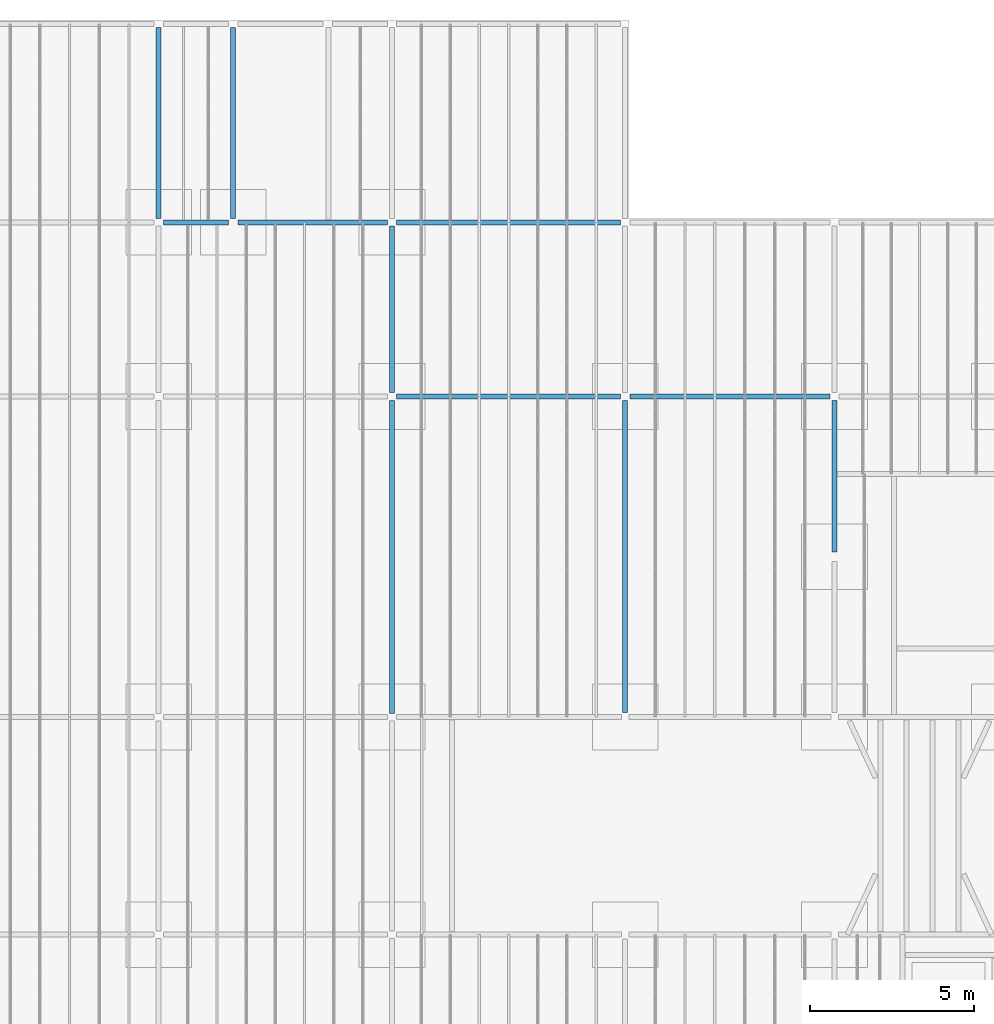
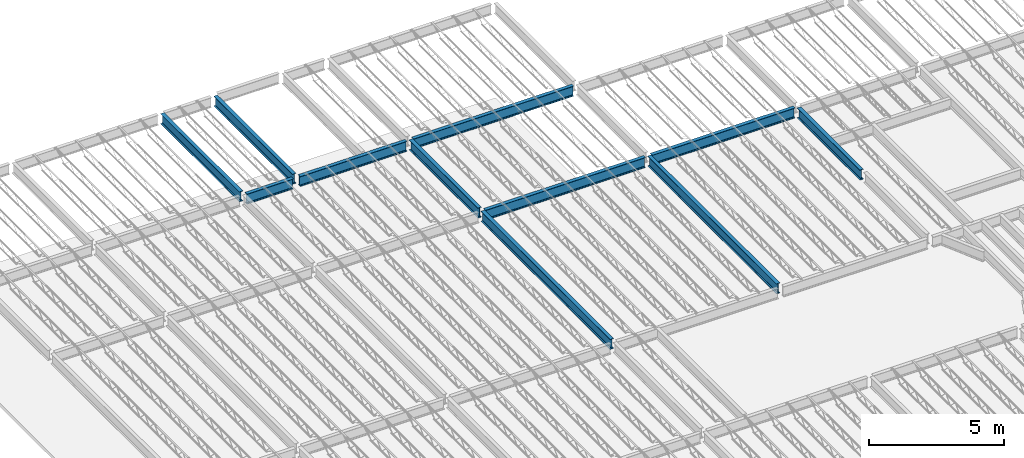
# One storey, part 10 of 75: 11 beams.
"""IFC2X3 building model written with IfcOpenShell, lengths in metres."""

from ifc_helpers import new_model, entity, si_unit, converted_unit, frame, frame_2d, origin, place, context, project, spatial, polyline, circle_curve, parameter, trimmed, segment, composite_curve, outline, extrude, material, element, save


model = new_model("IFC2X3")

# Units and contexts
model_context = context("Model", 3, precision=1e-09, world=origin())
plan_context = context("Plan", 3, precision=1e-09, world=origin())
ifc_project = project(units=[si_unit("LENGTHUNIT", "METRE"), si_unit("AREAUNIT", "SQUARE_METRE"), si_unit("VOLUMEUNIT", "CUBIC_METRE"), converted_unit("PLANEANGLEUNIT", "DEGREE", entity("IfcRatioMeasure", 0.01745329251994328), si_unit("PLANEANGLEUNIT", "RADIAN"), dimensions=[0, 0, 0, 0, 0, 0, 0]), si_unit("TIMEUNIT", "SECOND")], contexts=[model_context, plan_context])

# Site, building, storey
site_placement = place(None, origin())
site = spatial("IfcSite", under=ifc_project, at=site_placement, Name="Default", CompositionType="ELEMENT")
building_placement = place(site_placement, origin())
building = spatial("IfcBuilding", under=site, at=building_placement, CompositionType="ELEMENT")
storey_placement = place(building_placement, origin())
storey = spatial("IfcBuildingStorey", under=building, at=storey_placement, Name="First Floor", CompositionType="ELEMENT", Elevation=-3.531500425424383e-13)

# Beams
ifc_material = material(Name="Metal - Steel - 345 MPa")
beam_1_placement = place(storey_placement, frame((-33.55, 50.09257849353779, 4.468000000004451), z_axis=(0.0, 0.0, 1.0), x_axis=(-1.0, 0.0, 0.0)))
element("IfcBeam", 1, at=beam_1_placement, inside=storey, material=ifc_material, Name="M_W-Wide Flange:W460X60:W460X60", ObjectType="M_W-Wide Flange:W460X60", context=model_context, shape_type="SweptSolid", body=[
    extrude(outline(composite_curve([segment(polyline([(0.2142000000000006, -0.07649999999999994), (0.2275000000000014, -0.07649999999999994)]), True, "CONTINUOUS"), segment(polyline([(0.2275000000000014, -0.07649999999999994), (0.2275000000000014, 0.07649999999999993)]), True, "CONTINUOUS"), segment(polyline([(0.2275000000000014, 0.07649999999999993), (0.2142000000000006, 0.07649999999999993)]), True, "CONTINUOUS"), segment(polyline([(0.2142000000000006, 0.07649999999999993), (0.2142000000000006, 0.0216999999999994)]), True, "CONTINUOUS"), segment(trimmed(circle_curve(frame_2d((0.1965000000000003, 0.0216999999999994), x_axis=(1.0, 0.0)), 0.0177), [parameter(269.9999999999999)], [parameter(359.9999999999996)], True, "PARAMETER"), False, "CONTINUOUS"), segment(polyline([(0.1965000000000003, 0.003999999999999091), (-0.1964999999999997, 0.003999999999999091)]), True, "CONTINUOUS"), segment(trimmed(circle_curve(frame_2d((-0.1964999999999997, 0.0216999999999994), x_axis=(0.0, -1.0)), 0.0177), [parameter(269.9999999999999)], [parameter(359.9999999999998)], True, "PARAMETER"), False, "CONTINUOUS"), segment(polyline([(-0.2141999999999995, 0.0216999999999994), (-0.2141999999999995, 0.07649999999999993)]), True, "CONTINUOUS"), segment(polyline([(-0.2141999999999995, 0.07649999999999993), (-0.2274999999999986, 0.07649999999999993)]), True, "CONTINUOUS"), segment(polyline([(-0.2274999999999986, 0.07649999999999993), (-0.2274999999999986, -0.07649999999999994)]), True, "CONTINUOUS"), segment(polyline([(-0.2274999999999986, -0.07649999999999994), (-0.2141999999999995, -0.07649999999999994)]), True, "CONTINUOUS"), segment(polyline([(-0.2141999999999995, -0.07649999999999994), (-0.2141999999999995, -0.0216999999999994)]), True, "CONTINUOUS"), segment(trimmed(circle_curve(frame_2d((-0.1964999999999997, -0.0216999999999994), x_axis=(-1.0, 0.0)), 0.0177), [parameter(269.9999999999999)], [parameter(359.9999999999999)], True, "PARAMETER"), False, "CONTINUOUS"), segment(polyline([(-0.1964999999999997, -0.00399999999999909), (0.1965000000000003, -0.00399999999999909)]), True, "CONTINUOUS"), segment(trimmed(circle_curve(frame_2d((0.1965000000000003, -0.0216999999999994), x_axis=(0.0, 1.0)), 0.0177), [parameter(269.9999999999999)], [parameter(5.088887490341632e-14)], True, "PARAMETER"), False, "CONTINUOUS"), segment(polyline([(0.2142000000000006, -0.0216999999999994), (0.2142000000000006, -0.07649999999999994)]), True, "CONTINUOUS")], self_intersect=False)), frame((0.0, 5.197878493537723, -0.2275000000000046), z_axis=(0.0, -1.0, 0.0), x_axis=(0.0, 0.0, -1.0)), (0.0, 0.0, 1.0), 5.080599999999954),
])
beam_2_placement = place(storey_placement, frame((-40.65999999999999, 56.14226323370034, 4.46800000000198), z_axis=(0.0, 0.0, 1.0), x_axis=(-1.0, 0.0, 0.0)))
element("IfcBeam", 2, at=beam_2_placement, inside=storey, material=ifc_material, Name="M_W-Wide Flange:W460X60:W460X60", ObjectType="M_W-Wide Flange:W460X60", context=model_context, shape_type="SweptSolid", body=[
    extrude(outline(composite_curve([segment(polyline([(0.2141999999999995, -0.07649999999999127), (0.2275000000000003, -0.07649999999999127)]), True, "CONTINUOUS"), segment(polyline([(0.2275000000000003, -0.07649999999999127), (0.2275000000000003, 0.0765000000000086)]), True, "CONTINUOUS"), segment(polyline([(0.2275000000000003, 0.0765000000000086), (0.2141999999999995, 0.0765000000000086)]), True, "CONTINUOUS"), segment(polyline([(0.2141999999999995, 0.0765000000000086), (0.2141999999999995, 0.02170000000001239)]), True, "CONTINUOUS"), segment(trimmed(circle_curve(frame_2d((0.1964999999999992, 0.02170000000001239), x_axis=(0.0, 1.0)), 0.0177), [parameter(180.0)], [parameter(269.9999999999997)], True, "PARAMETER"), False, "CONTINUOUS"), segment(polyline([(0.1964999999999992, 0.004000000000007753), (-0.1965000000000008, 0.004000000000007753)]), True, "CONTINUOUS"), segment(trimmed(circle_curve(frame_2d((-0.1965000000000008, 0.02170000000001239), x_axis=(0.0, 1.0)), 0.0177), [parameter(90.00000000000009)], [parameter(179.9999999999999)], True, "PARAMETER"), False, "CONTINUOUS"), segment(polyline([(-0.2142000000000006, 0.02170000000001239), (-0.2142000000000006, 0.0765000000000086)]), True, "CONTINUOUS"), segment(polyline([(-0.2142000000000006, 0.0765000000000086), (-0.2274999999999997, 0.0765000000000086)]), True, "CONTINUOUS"), segment(polyline([(-0.2274999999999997, 0.0765000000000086), (-0.2274999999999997, -0.07649999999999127)]), True, "CONTINUOUS"), segment(polyline([(-0.2274999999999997, -0.07649999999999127), (-0.2142000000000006, -0.07649999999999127)]), True, "CONTINUOUS"), segment(polyline([(-0.2142000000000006, -0.07649999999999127), (-0.2142000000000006, -0.02169999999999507)]), True, "CONTINUOUS"), segment(trimmed(circle_curve(frame_2d((-0.1965000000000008, -0.0216999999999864), x_axis=(0.0, 1.0)), 0.0177), [parameter(359.9999999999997)], [parameter(89.99999999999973)], True, "PARAMETER"), False, "CONTINUOUS"), segment(polyline([(-0.1965000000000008, -0.003999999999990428), (0.1964999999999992, -0.003999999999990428)]), True, "CONTINUOUS"), segment(trimmed(circle_curve(frame_2d((0.1964999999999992, -0.0216999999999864), x_axis=(0.0, 1.0)), 0.0177), [parameter(269.9999999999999)], [parameter(0.0)], True, "PARAMETER"), False, "CONTINUOUS"), segment(polyline([(0.2141999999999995, -0.02169999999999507), (0.2141999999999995, -0.07649999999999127)]), True, "CONTINUOUS")], self_intersect=False)), frame((0.0, 5.937563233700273, -0.2275000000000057), z_axis=(0.0, -1.0, 0.0), x_axis=(0.0, 0.0, -1.0)), (0.0, 0.0, 1.0), 5.820600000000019),
])
beam_3_placement = place(storey_placement, frame((-33.55192591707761, 44.78000000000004, 4.404500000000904), z_axis=(0.0, 0.0, 1.0), x_axis=(0.0, -1.0, 0.0)))
element("IfcBeam", 3, at=beam_3_placement, inside=storey, material=ifc_material, Name="M_W-Wide Flange:W460X60:W460X60", ObjectType="M_W-Wide Flange:W460X60", context=model_context, shape_type="SweptSolid", body=[
    extrude(outline(composite_curve([segment(polyline([(-0.07650000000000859, -0.2142000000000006), (-0.07650000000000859, -0.2275000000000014)]), True, "CONTINUOUS"), segment(polyline([(-0.07650000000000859, -0.2275000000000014), (0.07649999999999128, -0.2275000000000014)]), True, "CONTINUOUS"), segment(polyline([(0.07649999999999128, -0.2275000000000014), (0.07649999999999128, -0.2142000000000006)]), True, "CONTINUOUS"), segment(polyline([(0.07649999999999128, -0.2142000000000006), (0.02169999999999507, -0.2142000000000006)]), True, "CONTINUOUS"), segment(trimmed(circle_curve(frame_2d((0.0216999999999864, -0.1965000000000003), x_axis=(0.0, -1.0)), 0.0177), [parameter(269.9999999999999)], [parameter(359.9999999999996)], True, "PARAMETER"), False, "CONTINUOUS"), segment(polyline([(0.003999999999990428, -0.1965000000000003), (0.003999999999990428, 0.1964999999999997)]), True, "CONTINUOUS"), segment(trimmed(circle_curve(frame_2d((0.0216999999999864, 0.1964999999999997), x_axis=(-1.0, 0.0)), 0.0177), [parameter(269.9999999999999)], [parameter(359.9999999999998)], True, "PARAMETER"), False, "CONTINUOUS"), segment(polyline([(0.02169999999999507, 0.2141999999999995), (0.07649999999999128, 0.2141999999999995)]), True, "CONTINUOUS"), segment(polyline([(0.07649999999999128, 0.2141999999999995), (0.07649999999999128, 0.2274999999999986)]), True, "CONTINUOUS"), segment(polyline([(0.07649999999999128, 0.2274999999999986), (-0.07650000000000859, 0.2274999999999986)]), True, "CONTINUOUS"), segment(polyline([(-0.07650000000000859, 0.2274999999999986), (-0.07650000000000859, 0.2141999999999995)]), True, "CONTINUOUS"), segment(polyline([(-0.07650000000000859, 0.2141999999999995), (-0.02170000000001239, 0.2141999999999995)]), True, "CONTINUOUS"), segment(trimmed(circle_curve(frame_2d((-0.02170000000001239, 0.1964999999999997), x_axis=(0.0, 1.0)), 0.0177), [parameter(269.9999999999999)], [parameter(359.9999999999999)], True, "PARAMETER"), False, "CONTINUOUS"), segment(polyline([(-0.004000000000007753, 0.1964999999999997), (-0.004000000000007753, -0.1965000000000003)]), True, "CONTINUOUS"), segment(trimmed(circle_curve(frame_2d((-0.02170000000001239, -0.1965000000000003), x_axis=(1.0, 0.0)), 0.0177), [parameter(269.9999999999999)], [parameter(5.088887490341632e-14)], True, "PARAMETER"), False, "CONTINUOUS"), segment(polyline([(-0.02170000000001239, -0.2142000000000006), (-0.07650000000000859, -0.2142000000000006)]), True, "CONTINUOUS")], self_intersect=False)), frame((0.0, 0.1431259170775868, -0.2275000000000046), z_axis=(0.0, -1.0, 0.0), x_axis=(1.0, 0.0, 0.0)), (0.0, 0.0, -1.0), 6.827600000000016),
])
beam_4_placement = place(storey_placement, frame((-38.38999999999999, 50.08773676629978, 4.46800000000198)))
element("IfcBeam", 4, at=beam_4_placement, inside=storey, material=ifc_material, Name="M_W-Wide Flange:W460X60:W460X60", ObjectType="M_W-Wide Flange:W460X60", context=model_context, shape_type="SweptSolid", body=[
    extrude(outline(composite_curve([segment(polyline([(-0.0765000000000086, -0.2142), (-0.0765000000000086, -0.2275000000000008)]), True, "CONTINUOUS"), segment(polyline([(-0.0765000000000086, -0.2275000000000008), (0.07649999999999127, -0.2275000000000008)]), True, "CONTINUOUS"), segment(polyline([(0.07649999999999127, -0.2275000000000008), (0.07649999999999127, -0.2142)]), True, "CONTINUOUS"), segment(polyline([(0.07649999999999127, -0.2142), (0.02169999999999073, -0.2142)]), True, "CONTINUOUS"), segment(trimmed(circle_curve(frame_2d((0.02169999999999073, -0.1964999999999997), x_axis=(1.0, 0.0)), 0.0177), [parameter(180.0)], [parameter(269.9999999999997)], True, "PARAMETER"), False, "CONTINUOUS"), segment(polyline([(0.003999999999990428, -0.1964999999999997), (0.003999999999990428, 0.1965000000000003)]), True, "CONTINUOUS"), segment(trimmed(circle_curve(frame_2d((0.02169999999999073, 0.1965000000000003), x_axis=(1.0, 0.0)), 0.0177), [parameter(90.00000000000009)], [parameter(179.9999999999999)], True, "PARAMETER"), False, "CONTINUOUS"), segment(polyline([(0.02169999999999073, 0.2142000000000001), (0.07649999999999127, 0.2142000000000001)]), True, "CONTINUOUS"), segment(polyline([(0.07649999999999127, 0.2142000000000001), (0.07649999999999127, 0.2274999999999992)]), True, "CONTINUOUS"), segment(polyline([(0.07649999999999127, 0.2274999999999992), (-0.0765000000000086, 0.2274999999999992)]), True, "CONTINUOUS"), segment(polyline([(-0.0765000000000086, 0.2274999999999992), (-0.0765000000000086, 0.2142000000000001)]), True, "CONTINUOUS"), segment(polyline([(-0.0765000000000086, 0.2142000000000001), (-0.02170000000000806, 0.2142000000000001)]), True, "CONTINUOUS"), segment(trimmed(circle_curve(frame_2d((-0.02170000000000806, 0.1965000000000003), x_axis=(1.0, 0.0)), 0.0177), [parameter(359.9999999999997)], [parameter(89.99999999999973)], True, "PARAMETER"), False, "CONTINUOUS"), segment(polyline([(-0.004000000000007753, 0.1965000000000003), (-0.004000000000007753, -0.1964999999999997)]), True, "CONTINUOUS"), segment(trimmed(circle_curve(frame_2d((-0.02170000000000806, -0.1964999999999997), x_axis=(1.0, 0.0)), 0.0177), [parameter(269.9999999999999)], [parameter(0.0)], True, "PARAMETER"), False, "CONTINUOUS"), segment(polyline([(-0.02170000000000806, -0.2142), (-0.0765000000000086, -0.2142)]), True, "CONTINUOUS")], self_intersect=False)), frame((0.0, 0.116963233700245, -0.2275000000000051), z_axis=(0.0, -1.0, 0.0), x_axis=(1.0, 0.0, 0.0)), (0.0, 0.0, -1.0), 5.820600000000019),
])
beam_5_placement = place(storey_placement, frame((-33.55, 44.7814016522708, 4.46800000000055), z_axis=(0.0, 0.0, 1.0), x_axis=(-1.0, 0.0, 0.0)))
element("IfcBeam", 5, at=beam_5_placement, inside=storey, material=ifc_material, Name="M_W-Wide Flange:W460X60:W460X60", ObjectType="M_W-Wide Flange:W460X60", context=model_context, shape_type="SweptSolid", body=[
    extrude(outline(composite_curve([segment(polyline([(0.2141999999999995, -0.07649999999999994), (0.2275000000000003, -0.07649999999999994)]), True, "CONTINUOUS"), segment(polyline([(0.2275000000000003, -0.07649999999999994), (0.2275000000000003, 0.07649999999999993)]), True, "CONTINUOUS"), segment(polyline([(0.2275000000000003, 0.07649999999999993), (0.2141999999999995, 0.07649999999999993)]), True, "CONTINUOUS"), segment(polyline([(0.2141999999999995, 0.07649999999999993), (0.2141999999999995, 0.0216999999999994)]), True, "CONTINUOUS"), segment(trimmed(circle_curve(frame_2d((0.1964999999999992, 0.0216999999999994), x_axis=(1.0, 0.0)), 0.0177), [parameter(269.9999999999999)], [parameter(359.9999999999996)], True, "PARAMETER"), False, "CONTINUOUS"), segment(polyline([(0.1964999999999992, 0.00399999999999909), (-0.1965000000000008, 0.00399999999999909)]), True, "CONTINUOUS"), segment(trimmed(circle_curve(frame_2d((-0.1965000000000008, 0.0216999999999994), x_axis=(0.0, -1.0)), 0.0177), [parameter(269.9999999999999)], [parameter(359.9999999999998)], True, "PARAMETER"), False, "CONTINUOUS"), segment(polyline([(-0.2142000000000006, 0.0216999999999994), (-0.2142000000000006, 0.07649999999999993)]), True, "CONTINUOUS"), segment(polyline([(-0.2142000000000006, 0.07649999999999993), (-0.2274999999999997, 0.07649999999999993)]), True, "CONTINUOUS"), segment(polyline([(-0.2274999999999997, 0.07649999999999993), (-0.2274999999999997, -0.07649999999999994)]), True, "CONTINUOUS"), segment(polyline([(-0.2274999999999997, -0.07649999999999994), (-0.2142000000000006, -0.07649999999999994)]), True, "CONTINUOUS"), segment(polyline([(-0.2142000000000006, -0.07649999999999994), (-0.2142000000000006, -0.0216999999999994)]), True, "CONTINUOUS"), segment(trimmed(circle_curve(frame_2d((-0.1965000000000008, -0.0216999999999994), x_axis=(-1.0, 0.0)), 0.0177), [parameter(269.9999999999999)], [parameter(359.9999999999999)], True, "PARAMETER"), False, "CONTINUOUS"), segment(polyline([(-0.1965000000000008, -0.003999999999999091), (0.1964999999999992, -0.003999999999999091)]), True, "CONTINUOUS"), segment(trimmed(circle_curve(frame_2d((0.1964999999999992, -0.0216999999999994), x_axis=(0.0, 1.0)), 0.0177), [parameter(269.9999999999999)], [parameter(5.088887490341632e-14)], True, "PARAMETER"), False, "CONTINUOUS"), segment(polyline([(0.2141999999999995, -0.0216999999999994), (0.2141999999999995, -0.07649999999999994)]), True, "CONTINUOUS")], self_intersect=False)), frame((0.0, 9.656701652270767, -0.2275000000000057), z_axis=(0.0, -1.0, 0.0), x_axis=(0.0, 0.0, -1.0)), (0.0, 0.0, 1.0), 9.540600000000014),
])
beam_6_placement = place(storey_placement, frame((-26.4421462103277, 44.78000000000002, 4.404500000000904), z_axis=(0.0, 0.0, 1.0), x_axis=(0.0, -1.0, 0.0)))
element("IfcBeam", 6, at=beam_6_placement, inside=storey, material=ifc_material, Name="M_W-Wide Flange:W460X60:W460X60", ObjectType="M_W-Wide Flange:W460X60", context=model_context, shape_type="SweptSolid", body=[
    extrude(outline(composite_curve([segment(polyline([(-0.07649999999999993, -0.2142000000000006), (-0.07649999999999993, -0.2275000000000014)]), True, "CONTINUOUS"), segment(polyline([(-0.07649999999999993, -0.2275000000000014), (0.07649999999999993, -0.2275000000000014)]), True, "CONTINUOUS"), segment(polyline([(0.07649999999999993, -0.2275000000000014), (0.07649999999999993, -0.2142000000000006)]), True, "CONTINUOUS"), segment(polyline([(0.07649999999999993, -0.2142000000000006), (0.02170000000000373, -0.2142000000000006)]), True, "CONTINUOUS"), segment(trimmed(circle_curve(frame_2d((0.02170000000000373, -0.1965000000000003), x_axis=(0.0, -1.0)), 0.0177), [parameter(269.9999999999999)], [parameter(359.9999999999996)], True, "PARAMETER"), False, "CONTINUOUS"), segment(polyline([(0.003999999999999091, -0.1965000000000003), (0.003999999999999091, 0.1964999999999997)]), True, "CONTINUOUS"), segment(trimmed(circle_curve(frame_2d((0.02170000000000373, 0.1964999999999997), x_axis=(-1.0, 0.0)), 0.0177), [parameter(269.9999999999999)], [parameter(359.9999999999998)], True, "PARAMETER"), False, "CONTINUOUS"), segment(polyline([(0.02170000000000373, 0.2141999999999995), (0.07649999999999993, 0.2141999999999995)]), True, "CONTINUOUS"), segment(polyline([(0.07649999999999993, 0.2141999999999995), (0.07649999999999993, 0.2274999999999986)]), True, "CONTINUOUS"), segment(polyline([(0.07649999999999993, 0.2274999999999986), (-0.07649999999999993, 0.2274999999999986)]), True, "CONTINUOUS"), segment(polyline([(-0.07649999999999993, 0.2274999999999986), (-0.07649999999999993, 0.2141999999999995)]), True, "CONTINUOUS"), segment(polyline([(-0.07649999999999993, 0.2141999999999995), (-0.02170000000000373, 0.2141999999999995)]), True, "CONTINUOUS"), segment(trimmed(circle_curve(frame_2d((-0.02169999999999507, 0.1964999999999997), x_axis=(0.0, 1.0)), 0.0177), [parameter(269.9999999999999)], [parameter(359.9999999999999)], True, "PARAMETER"), False, "CONTINUOUS"), segment(polyline([(-0.003999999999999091, 0.1964999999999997), (-0.003999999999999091, -0.1965000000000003)]), True, "CONTINUOUS"), segment(trimmed(circle_curve(frame_2d((-0.02169999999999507, -0.1965000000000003), x_axis=(1.0, 0.0)), 0.0177), [parameter(269.9999999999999)], [parameter(5.088887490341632e-14)], True, "PARAMETER"), False, "CONTINUOUS"), segment(polyline([(-0.02170000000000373, -0.2142000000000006), (-0.07649999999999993, -0.2142000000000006)]), True, "CONTINUOUS")], self_intersect=False)), frame((0.0, 0.1433462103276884, -0.2275000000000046), z_axis=(0.0, -1.0, 0.0), x_axis=(1.0, 0.0, 0.0)), (0.0, 0.0, -1.0), 6.097600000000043),
])
beam_7_placement = place(storey_placement, frame((-20.05999999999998, 44.78280291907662, 4.404500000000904), z_axis=(0.0, 0.0, 1.0), x_axis=(-1.0, 0.0, 0.0)))
element("IfcBeam", 7, at=beam_7_placement, inside=storey, material=ifc_material, Name="M_W-Wide Flange:W460X60:W460X60", ObjectType="M_W-Wide Flange:W460X60", context=model_context, shape_type="SweptSolid", body=[
    extrude(outline(composite_curve([segment(polyline([(0.2141999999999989, -0.0764999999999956), (0.2274999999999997, -0.0764999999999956)]), True, "CONTINUOUS"), segment(polyline([(0.2274999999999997, -0.0764999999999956), (0.2274999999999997, 0.07650000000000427)]), True, "CONTINUOUS"), segment(polyline([(0.2274999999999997, 0.07650000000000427), (0.2141999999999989, 0.07650000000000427)]), True, "CONTINUOUS"), segment(polyline([(0.2141999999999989, 0.07650000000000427), (0.2141999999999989, 0.02170000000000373)]), True, "CONTINUOUS"), segment(trimmed(circle_curve(frame_2d((0.1964999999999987, 0.02170000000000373), x_axis=(1.0, 0.0)), 0.0177), [parameter(269.9999999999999)], [parameter(359.9999999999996)], True, "PARAMETER"), False, "CONTINUOUS"), segment(polyline([(0.1964999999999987, 0.004000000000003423), (-0.1965000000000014, 0.004000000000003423)]), True, "CONTINUOUS"), segment(trimmed(circle_curve(frame_2d((-0.1965000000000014, 0.02170000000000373), x_axis=(0.0, -1.0)), 0.0177), [parameter(269.9999999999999)], [parameter(359.9999999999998)], True, "PARAMETER"), False, "CONTINUOUS"), segment(polyline([(-0.2142000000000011, 0.02170000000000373), (-0.2142000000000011, 0.07650000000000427)]), True, "CONTINUOUS"), segment(polyline([(-0.2142000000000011, 0.07650000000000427), (-0.2275000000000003, 0.07650000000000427)]), True, "CONTINUOUS"), segment(polyline([(-0.2275000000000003, 0.07650000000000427), (-0.2275000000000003, -0.0764999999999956)]), True, "CONTINUOUS"), segment(polyline([(-0.2275000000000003, -0.0764999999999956), (-0.2142000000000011, -0.0764999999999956)]), True, "CONTINUOUS"), segment(polyline([(-0.2142000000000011, -0.0764999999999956), (-0.2142000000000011, -0.02169999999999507)]), True, "CONTINUOUS"), segment(trimmed(circle_curve(frame_2d((-0.1965000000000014, -0.02169999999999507), x_axis=(-1.0, 0.0)), 0.0177), [parameter(269.9999999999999)], [parameter(359.9999999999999)], True, "PARAMETER"), False, "CONTINUOUS"), segment(polyline([(-0.1965000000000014, -0.003999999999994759), (0.1964999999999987, -0.003999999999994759)]), True, "CONTINUOUS"), segment(trimmed(circle_curve(frame_2d((0.1964999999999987, -0.02169999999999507), x_axis=(0.0, 1.0)), 0.0177), [parameter(269.9999999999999)], [parameter(5.088887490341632e-14)], True, "PARAMETER"), False, "CONTINUOUS"), segment(polyline([(0.2141999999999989, -0.02169999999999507), (0.2141999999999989, -0.0764999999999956)]), True, "CONTINUOUS")], self_intersect=False)), frame((0.0, 4.746223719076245, -0.2275000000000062), z_axis=(0.0, -1.0, 0.0), x_axis=(0.0, 0.0, -1.0)), (0.0, 0.0, 1.0), 4.628720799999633),
])
beam_8_placement = place(storey_placement, frame((-38.39282874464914, 50.09000000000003, 4.404500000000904), z_axis=(0.0, 0.0, 1.0), x_axis=(0.0, -1.0, 0.0)))
element("IfcBeam", 8, at=beam_8_placement, inside=storey, material=ifc_material, Name="M_W-Wide Flange:W460X60:W460X60", ObjectType="M_W-Wide Flange:W460X60", context=model_context, shape_type="SweptSolid", body=[
    extrude(outline(composite_curve([segment(polyline([(-0.07649999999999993, -0.2142000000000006), (-0.07649999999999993, -0.2275000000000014)]), True, "CONTINUOUS"), segment(polyline([(-0.07649999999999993, -0.2275000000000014), (0.07649999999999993, -0.2275000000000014)]), True, "CONTINUOUS"), segment(polyline([(0.07649999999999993, -0.2275000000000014), (0.07649999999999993, -0.2142000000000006)]), True, "CONTINUOUS"), segment(polyline([(0.07649999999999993, -0.2142000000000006), (0.02170000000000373, -0.2142000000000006)]), True, "CONTINUOUS"), segment(trimmed(circle_curve(frame_2d((0.02170000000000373, -0.1965000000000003), x_axis=(0.0, -1.0)), 0.0177), [parameter(269.9999999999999)], [parameter(359.9999999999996)], True, "PARAMETER"), False, "CONTINUOUS"), segment(polyline([(0.003999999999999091, -0.1965000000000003), (0.003999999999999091, 0.1964999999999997)]), True, "CONTINUOUS"), segment(trimmed(circle_curve(frame_2d((0.02170000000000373, 0.1964999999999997), x_axis=(-1.0, 0.0)), 0.0177), [parameter(269.9999999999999)], [parameter(359.9999999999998)], True, "PARAMETER"), False, "CONTINUOUS"), segment(polyline([(0.02170000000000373, 0.2141999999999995), (0.07649999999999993, 0.2141999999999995)]), True, "CONTINUOUS"), segment(polyline([(0.07649999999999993, 0.2141999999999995), (0.07649999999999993, 0.2274999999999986)]), True, "CONTINUOUS"), segment(polyline([(0.07649999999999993, 0.2274999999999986), (-0.07649999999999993, 0.2274999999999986)]), True, "CONTINUOUS"), segment(polyline([(-0.07649999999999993, 0.2274999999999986), (-0.07649999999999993, 0.2141999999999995)]), True, "CONTINUOUS"), segment(polyline([(-0.07649999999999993, 0.2141999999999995), (-0.02170000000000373, 0.2141999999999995)]), True, "CONTINUOUS"), segment(trimmed(circle_curve(frame_2d((-0.02169999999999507, 0.1964999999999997), x_axis=(0.0, 1.0)), 0.0177), [parameter(269.9999999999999)], [parameter(359.9999999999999)], True, "PARAMETER"), False, "CONTINUOUS"), segment(polyline([(-0.003999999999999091, 0.1964999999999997), (-0.003999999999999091, -0.1965000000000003)]), True, "CONTINUOUS"), segment(trimmed(circle_curve(frame_2d((-0.02169999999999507, -0.1965000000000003), x_axis=(1.0, 0.0)), 0.0177), [parameter(269.9999999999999)], [parameter(5.088887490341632e-14)], True, "PARAMETER"), False, "CONTINUOUS"), segment(polyline([(-0.02170000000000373, -0.2142000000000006), (-0.07649999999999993, -0.2142000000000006)]), True, "CONTINUOUS")], self_intersect=False)), frame((0.0, 0.1440287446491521, -0.2275000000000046), z_axis=(0.0, -1.0, 0.0), x_axis=(1.0, 0.0, 0.0)), (0.0, 0.0, -1.0), 4.557600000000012),
])
beam_9_placement = place(storey_placement, frame((-33.55192591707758, 50.09, 4.404500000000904), z_axis=(0.0, 0.0, 1.0), x_axis=(0.0, -1.0, 0.0)))
element("IfcBeam", 9, at=beam_9_placement, inside=storey, material=ifc_material, Name="M_W-Wide Flange:W460X60:W460X60", ObjectType="M_W-Wide Flange:W460X60", context=model_context, shape_type="SweptSolid", body=[
    extrude(outline(composite_curve([segment(polyline([(-0.07649999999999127, -0.2142000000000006), (-0.07649999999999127, -0.2275000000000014)]), True, "CONTINUOUS"), segment(polyline([(-0.07649999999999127, -0.2275000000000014), (0.0765000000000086, -0.2275000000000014)]), True, "CONTINUOUS"), segment(polyline([(0.0765000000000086, -0.2275000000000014), (0.0765000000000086, -0.2142000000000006)]), True, "CONTINUOUS"), segment(polyline([(0.0765000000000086, -0.2142000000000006), (0.02170000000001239, -0.2142000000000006)]), True, "CONTINUOUS"), segment(trimmed(circle_curve(frame_2d((0.02170000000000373, -0.1965000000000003), x_axis=(0.0, -1.0)), 0.0177), [parameter(269.9999999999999)], [parameter(359.9999999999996)], True, "PARAMETER"), False, "CONTINUOUS"), segment(polyline([(0.004000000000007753, -0.1965000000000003), (0.004000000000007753, 0.1964999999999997)]), True, "CONTINUOUS"), segment(trimmed(circle_curve(frame_2d((0.02170000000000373, 0.1964999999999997), x_axis=(-1.0, 0.0)), 0.0177), [parameter(269.9999999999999)], [parameter(359.9999999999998)], True, "PARAMETER"), False, "CONTINUOUS"), segment(polyline([(0.02170000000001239, 0.2141999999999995), (0.0765000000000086, 0.2141999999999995)]), True, "CONTINUOUS"), segment(polyline([(0.0765000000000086, 0.2141999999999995), (0.0765000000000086, 0.2274999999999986)]), True, "CONTINUOUS"), segment(polyline([(0.0765000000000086, 0.2274999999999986), (-0.07649999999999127, 0.2274999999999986)]), True, "CONTINUOUS"), segment(polyline([(-0.07649999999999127, 0.2274999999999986), (-0.07649999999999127, 0.2141999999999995)]), True, "CONTINUOUS"), segment(polyline([(-0.07649999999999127, 0.2141999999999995), (-0.02169999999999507, 0.2141999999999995)]), True, "CONTINUOUS"), segment(trimmed(circle_curve(frame_2d((-0.02169999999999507, 0.1964999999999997), x_axis=(0.0, 1.0)), 0.0177), [parameter(269.9999999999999)], [parameter(359.9999999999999)], True, "PARAMETER"), False, "CONTINUOUS"), segment(polyline([(-0.003999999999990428, 0.1964999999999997), (-0.003999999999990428, -0.1965000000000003)]), True, "CONTINUOUS"), segment(trimmed(circle_curve(frame_2d((-0.02169999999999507, -0.1965000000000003), x_axis=(1.0, 0.0)), 0.0177), [parameter(269.9999999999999)], [parameter(5.088887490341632e-14)], True, "PARAMETER"), False, "CONTINUOUS"), segment(polyline([(-0.02169999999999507, -0.2142000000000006), (-0.07649999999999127, -0.2142000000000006)]), True, "CONTINUOUS")], self_intersect=False)), frame((0.0, 0.1431259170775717, -0.2275000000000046), z_axis=(0.0, -1.0, 0.0), x_axis=(1.0, 0.0, 0.0)), (0.0, 0.0, -1.0), 6.827600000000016),
])
beam_10_placement = place(storey_placement, frame((-40.66602509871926, 50.09000000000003, 4.404500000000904), z_axis=(0.0, 0.0, 1.0), x_axis=(0.0, -1.0, 0.0)))
element("IfcBeam", 10, at=beam_10_placement, inside=storey, material=ifc_material, Name="M_W-Wide Flange:W460X60:W460X60", ObjectType="M_W-Wide Flange:W460X60", context=model_context, shape_type="SweptSolid", body=[
    extrude(outline(composite_curve([segment(polyline([(-0.07649999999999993, -0.2142000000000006), (-0.07649999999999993, -0.2275000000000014)]), True, "CONTINUOUS"), segment(polyline([(-0.07649999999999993, -0.2275000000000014), (0.07649999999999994, -0.2275000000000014)]), True, "CONTINUOUS"), segment(polyline([(0.07649999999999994, -0.2275000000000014), (0.07649999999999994, -0.2142000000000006)]), True, "CONTINUOUS"), segment(polyline([(0.07649999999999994, -0.2142000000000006), (0.02170000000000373, -0.2142000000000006)]), True, "CONTINUOUS"), segment(trimmed(circle_curve(frame_2d((0.02169999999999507, -0.1965000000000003), x_axis=(0.0, -1.0)), 0.0177), [parameter(269.9999999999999)], [parameter(359.9999999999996)], True, "PARAMETER"), False, "CONTINUOUS"), segment(polyline([(0.00399999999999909, -0.1965000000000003), (0.00399999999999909, 0.1964999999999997)]), True, "CONTINUOUS"), segment(trimmed(circle_curve(frame_2d((0.02169999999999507, 0.1964999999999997), x_axis=(-1.0, 0.0)), 0.0177), [parameter(269.9999999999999)], [parameter(359.9999999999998)], True, "PARAMETER"), False, "CONTINUOUS"), segment(polyline([(0.02170000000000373, 0.2141999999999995), (0.07649999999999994, 0.2141999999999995)]), True, "CONTINUOUS"), segment(polyline([(0.07649999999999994, 0.2141999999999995), (0.07649999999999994, 0.2274999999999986)]), True, "CONTINUOUS"), segment(polyline([(0.07649999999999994, 0.2274999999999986), (-0.07649999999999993, 0.2274999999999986)]), True, "CONTINUOUS"), segment(polyline([(-0.07649999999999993, 0.2274999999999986), (-0.07649999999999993, 0.2141999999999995)]), True, "CONTINUOUS"), segment(polyline([(-0.07649999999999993, 0.2141999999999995), (-0.02170000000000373, 0.2141999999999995)]), True, "CONTINUOUS"), segment(trimmed(circle_curve(frame_2d((-0.02170000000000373, 0.1964999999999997), x_axis=(0.0, 1.0)), 0.0177), [parameter(269.9999999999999)], [parameter(359.9999999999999)], True, "PARAMETER"), False, "CONTINUOUS"), segment(polyline([(-0.003999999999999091, 0.1964999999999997), (-0.003999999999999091, -0.1965000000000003)]), True, "CONTINUOUS"), segment(trimmed(circle_curve(frame_2d((-0.02170000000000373, -0.1965000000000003), x_axis=(1.0, 0.0)), 0.0177), [parameter(269.9999999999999)], [parameter(5.088887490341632e-14)], True, "PARAMETER"), False, "CONTINUOUS"), segment(polyline([(-0.02170000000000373, -0.2142000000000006), (-0.07649999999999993, -0.2142000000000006)]), True, "CONTINUOUS")], self_intersect=False)), frame((0.0, 0.1472250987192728, -0.2275000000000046), z_axis=(0.0, -1.0, 0.0), x_axis=(1.0, 0.0, 0.0)), (0.0, 0.0, -1.0), 1.987600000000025),
])
beam_11_placement = place(storey_placement, frame((-26.44000000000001, 44.78140165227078, 4.46800000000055), z_axis=(0.0, 0.0, 1.0), x_axis=(-1.0, 0.0, 0.0)))
element("IfcBeam", 11, at=beam_11_placement, inside=storey, material=ifc_material, Name="M_W-Wide Flange:W460X60:W460X60", ObjectType="M_W-Wide Flange:W460X60", context=model_context, shape_type="SweptSolid", body=[
    extrude(outline(composite_curve([segment(polyline([(0.2141999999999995, -0.07649999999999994), (0.2275000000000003, -0.07649999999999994)]), True, "CONTINUOUS"), segment(polyline([(0.2275000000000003, -0.07649999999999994), (0.2275000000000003, 0.07649999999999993)]), True, "CONTINUOUS"), segment(polyline([(0.2275000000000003, 0.07649999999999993), (0.2141999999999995, 0.07649999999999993)]), True, "CONTINUOUS"), segment(polyline([(0.2141999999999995, 0.07649999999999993), (0.2141999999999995, 0.0216999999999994)]), True, "CONTINUOUS"), segment(trimmed(circle_curve(frame_2d((0.1964999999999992, 0.0216999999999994), x_axis=(1.0, 0.0)), 0.0177), [parameter(269.9999999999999)], [parameter(359.9999999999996)], True, "PARAMETER"), False, "CONTINUOUS"), segment(polyline([(0.1964999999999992, 0.003999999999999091), (-0.1965000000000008, 0.003999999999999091)]), True, "CONTINUOUS"), segment(trimmed(circle_curve(frame_2d((-0.1965000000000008, 0.0216999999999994), x_axis=(0.0, -1.0)), 0.0177), [parameter(269.9999999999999)], [parameter(359.9999999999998)], True, "PARAMETER"), False, "CONTINUOUS"), segment(polyline([(-0.2142000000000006, 0.0216999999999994), (-0.2142000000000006, 0.07649999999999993)]), True, "CONTINUOUS"), segment(polyline([(-0.2142000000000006, 0.07649999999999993), (-0.2274999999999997, 0.07649999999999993)]), True, "CONTINUOUS"), segment(polyline([(-0.2274999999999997, 0.07649999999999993), (-0.2274999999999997, -0.07649999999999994)]), True, "CONTINUOUS"), segment(polyline([(-0.2274999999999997, -0.07649999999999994), (-0.2142000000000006, -0.07649999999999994)]), True, "CONTINUOUS"), segment(polyline([(-0.2142000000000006, -0.07649999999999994), (-0.2142000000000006, -0.0216999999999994)]), True, "CONTINUOUS"), segment(trimmed(circle_curve(frame_2d((-0.1965000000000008, -0.0216999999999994), x_axis=(-1.0, 0.0)), 0.0177), [parameter(269.9999999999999)], [parameter(359.9999999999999)], True, "PARAMETER"), False, "CONTINUOUS"), segment(polyline([(-0.1965000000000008, -0.003999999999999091), (0.1964999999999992, -0.003999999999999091)]), True, "CONTINUOUS"), segment(trimmed(circle_curve(frame_2d((0.1964999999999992, -0.0216999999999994), x_axis=(0.0, 1.0)), 0.0177), [parameter(269.9999999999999)], [parameter(5.088887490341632e-14)], True, "PARAMETER"), False, "CONTINUOUS"), segment(polyline([(0.2141999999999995, -0.0216999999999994), (0.2141999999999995, -0.07649999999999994)]), True, "CONTINUOUS")], self_intersect=False)), frame((0.0, 9.630201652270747, -0.2275000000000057), z_axis=(0.0, -1.0, 0.0), x_axis=(0.0, 0.0, -1.0)), (0.0, 0.0, 1.0), 9.514099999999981),
])

save(model, "model.ifc")
